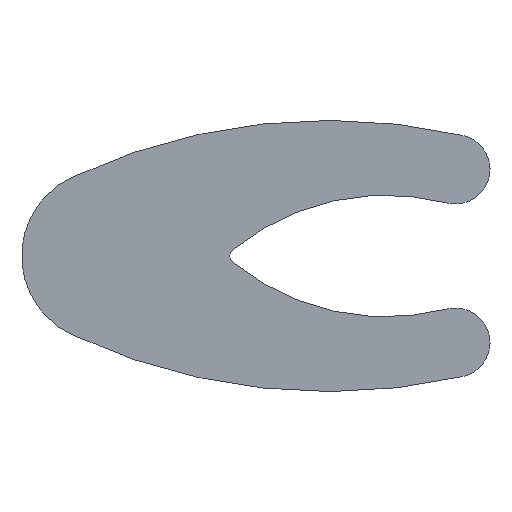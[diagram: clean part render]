
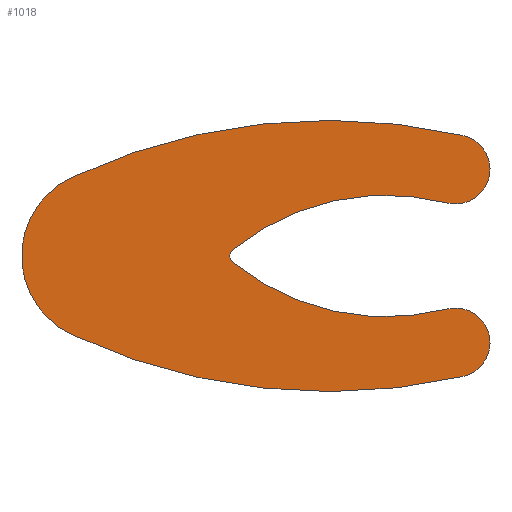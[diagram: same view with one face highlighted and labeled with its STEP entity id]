
A CAD part, front view. The second image highlights one B-rep face of the part: STEP entity #1018.
In plain terms, the highlighted planar face has unit normal (0, -1, 0).
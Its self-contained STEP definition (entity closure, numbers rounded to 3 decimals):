
#32=PLANE('',#1179);
#211=FACE_OUTER_BOUND('',#281,.T.);
#281=EDGE_LOOP('',(#920,#921,#922,#923,#924,#925,#926,#927));
#378=CIRCLE('',#1146,56.);
#379=CIRCLE('',#1148,8.);
#380=CIRCLE('',#1150,140.);
#381=CIRCLE('',#1152,20.);
#382=CIRCLE('',#1172,140.);
#383=CIRCLE('',#1174,8.);
#384=CIRCLE('',#1176,56.);
#385=CIRCLE('',#1178,2.);
#470=VERTEX_POINT('',#1824);
#471=VERTEX_POINT('',#1826);
#472=VERTEX_POINT('',#1830);
#473=VERTEX_POINT('',#1834);
#474=VERTEX_POINT('',#1838);
#475=VERTEX_POINT('',#1878);
#476=VERTEX_POINT('',#1882);
#477=VERTEX_POINT('',#1886);
#595=EDGE_CURVE('',#470,#471,#378,.T.);
#598=EDGE_CURVE('',#472,#470,#379,.T.);
#600=EDGE_CURVE('',#473,#472,#380,.T.);
#602=EDGE_CURVE('',#474,#473,#381,.T.);
#622=EDGE_CURVE('',#475,#474,#382,.T.);
#624=EDGE_CURVE('',#476,#475,#383,.T.);
#626=EDGE_CURVE('',#477,#476,#384,.T.);
#627=EDGE_CURVE('',#471,#477,#385,.T.);
#920=ORIENTED_EDGE('',*,*,#602,.F.);
#921=ORIENTED_EDGE('',*,*,#622,.F.);
#922=ORIENTED_EDGE('',*,*,#624,.F.);
#923=ORIENTED_EDGE('',*,*,#626,.F.);
#924=ORIENTED_EDGE('',*,*,#627,.F.);
#925=ORIENTED_EDGE('',*,*,#595,.F.);
#926=ORIENTED_EDGE('',*,*,#598,.F.);
#927=ORIENTED_EDGE('',*,*,#600,.F.);
#1018=ADVANCED_FACE('',(#211),#32,.T.);
#1146=AXIS2_PLACEMENT_3D('',#1827,#1453,#1454);
#1148=AXIS2_PLACEMENT_3D('',#1832,#1459,#1460);
#1150=AXIS2_PLACEMENT_3D('',#1836,#1464,#1465);
#1152=AXIS2_PLACEMENT_3D('',#1840,#1469,#1470);
#1172=AXIS2_PLACEMENT_3D('',#1880,#1528,#1529);
#1174=AXIS2_PLACEMENT_3D('',#1884,#1533,#1534);
#1176=AXIS2_PLACEMENT_3D('',#1888,#1538,#1539);
#1178=AXIS2_PLACEMENT_3D('',#1890,#1542,#1543);
#1179=AXIS2_PLACEMENT_3D('',#1891,#1544,#1545);
#1453=DIRECTION('center_axis',(0.,-1.,0.));
#1454=DIRECTION('ref_axis',(0.629,0.,-0.777));
#1459=DIRECTION('center_axis',(0.,1.,0.));
#1460=DIRECTION('ref_axis',(0.221,0.,0.975));
#1464=DIRECTION('center_axis',(0.,1.,0.));
#1465=DIRECTION('ref_axis',(-0.423,0.,0.906));
#1469=DIRECTION('center_axis',(0.,1.,0.));
#1470=DIRECTION('ref_axis',(-0.423,0.,-0.906));
#1528=DIRECTION('center_axis',(0.,1.,0.));
#1529=DIRECTION('ref_axis',(0.221,0.,-0.975));
#1533=DIRECTION('center_axis',(0.,1.,0.));
#1534=DIRECTION('ref_axis',(-0.25,0.,0.968));
#1538=DIRECTION('center_axis',(0.,-1.,0.));
#1539=DIRECTION('ref_axis',(-0.25,0.,0.968));
#1542=DIRECTION('center_axis',(0.,-1.,0.));
#1543=DIRECTION('ref_axis',(1.,0.,0.));
#1544=DIRECTION('center_axis',(0.,-1.,0.));
#1545=DIRECTION('ref_axis',(0.,0.,-1.));
#1824=CARTESIAN_POINT('',(77.998,0.,12.254));
#1826=CARTESIAN_POINT('',(28.741,0.,1.554));
#1827=CARTESIAN_POINT('Origin',(63.986,0.,-41.964));
#1830=CARTESIAN_POINT('',(81.771,0.,27.802));
#1832=CARTESIAN_POINT('Origin',(80.,0.,20.));
#1834=CARTESIAN_POINT('',(-8.464,0.,18.121));
#1836=CARTESIAN_POINT('Origin',(50.781,0.,-108.726));
#1838=CARTESIAN_POINT('',(-8.464,0.,-18.121));
#1840=CARTESIAN_POINT('Origin',(0.,0.,0.));
#1878=CARTESIAN_POINT('',(81.771,0.,-27.802));
#1880=CARTESIAN_POINT('Origin',(50.781,0.,108.726));
#1882=CARTESIAN_POINT('',(77.998,0.,-12.254));
#1884=CARTESIAN_POINT('Origin',(80.,0.,-20.));
#1886=CARTESIAN_POINT('',(28.741,0.,-1.554));
#1888=CARTESIAN_POINT('Origin',(63.986,0.,41.964));
#1890=CARTESIAN_POINT('Origin',(30.,0.,0.));
#1891=CARTESIAN_POINT('Origin',(40.744,0.,0.));
